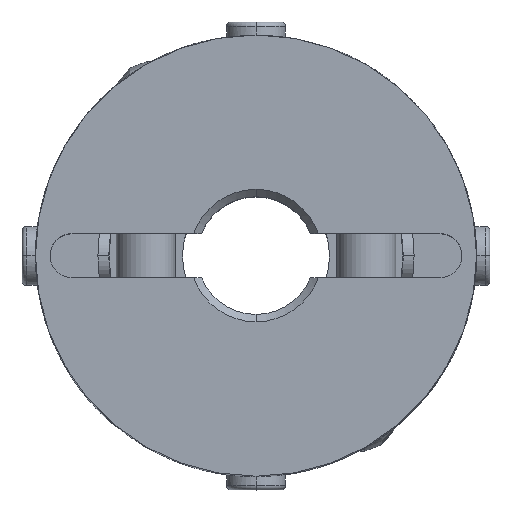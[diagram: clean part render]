
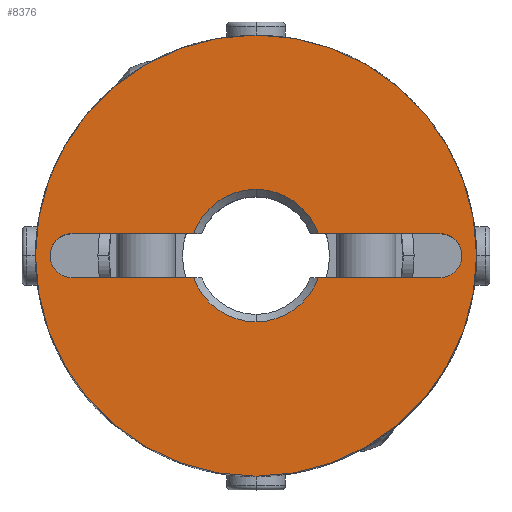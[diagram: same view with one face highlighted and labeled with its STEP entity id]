
A CAD part, top view. The second image highlights one B-rep face of the part: STEP entity #8376.
In plain terms, the highlighted planar face has unit normal (0, 0, 1).
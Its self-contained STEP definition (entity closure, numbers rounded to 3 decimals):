
#649=CARTESIAN_POINT('',(0.,4.5,15.0));
#650=VERTEX_POINT('',#649);
#666=CARTESIAN_POINT('',(4.243,1.5,15.0));
#667=VERTEX_POINT('',#666);
#681=CARTESIAN_POINT('',(0.,0.,15.0));
#682=DIRECTION('',(0.0,0.0,1.0));
#683=DIRECTION('',(0.0,1.0,0.0));
#684=AXIS2_PLACEMENT_3D('',#681,#682,#683);
#685=CIRCLE('',#684,4.5);
#686=EDGE_CURVE('',#667,#650,#685,.T.);
#696=CARTESIAN_POINT('',(0.,-4.5,15.0));
#697=VERTEX_POINT('',#696);
#706=CARTESIAN_POINT('',(4.243,-1.5,15.0));
#707=VERTEX_POINT('',#706);
#708=CARTESIAN_POINT('',(0.,0.,15.0));
#709=DIRECTION('',(0.0,0.0,1.0));
#710=DIRECTION('',(0.0,1.0,0.0));
#711=AXIS2_PLACEMENT_3D('',#708,#709,#710);
#712=CIRCLE('',#711,4.5);
#713=EDGE_CURVE('',#697,#707,#712,.T.);
#872=CARTESIAN_POINT('',(-13.561,-1.061,15.0));
#873=VERTEX_POINT('',#872);
#889=CARTESIAN_POINT('',(-12.5,1.5,15.0));
#890=VERTEX_POINT('',#889);
#897=CARTESIAN_POINT('',(-12.5,0.,15.0));
#898=DIRECTION('',(0.0,0.0,1.0));
#899=DIRECTION('',(-0.707,0.707,0.0));
#900=AXIS2_PLACEMENT_3D('',#897,#898,#899);
#901=CIRCLE('',#900,1.5);
#902=EDGE_CURVE('',#890,#873,#901,.T.);
#914=CARTESIAN_POINT('',(13.561,-1.061,15.0));
#915=VERTEX_POINT('',#914);
#931=CARTESIAN_POINT('',(12.5,-1.5,15.0));
#932=VERTEX_POINT('',#931);
#939=CARTESIAN_POINT('',(12.5,0.,15.0));
#940=DIRECTION('',(0.0,0.0,1.0));
#941=DIRECTION('',(0.707,-0.707,0.0));
#942=AXIS2_PLACEMENT_3D('',#939,#940,#941);
#943=CIRCLE('',#942,1.5);
#944=EDGE_CURVE('',#932,#915,#943,.T.);
#1489=CARTESIAN_POINT('',(0.,-15.,15.0));
#1490=VERTEX_POINT('',#1489);
#1497=CARTESIAN_POINT('',(0.,15.0,15.0));
#1498=VERTEX_POINT('',#1497);
#1499=CARTESIAN_POINT('',(0.,0.,15.0));
#1500=DIRECTION('',(0.0,0.0,-1.0));
#1501=DIRECTION('',(0.0,1.0,0.0));
#1502=AXIS2_PLACEMENT_3D('',#1499,#1500,#1501);
#1503=CIRCLE('',#1502,15.0);
#1504=EDGE_CURVE('',#1490,#1498,#1503,.T.);
#7577=CARTESIAN_POINT('',(0.,0.,15.0));
#7578=DIRECTION('',(0.0,0.0,-1.0));
#7579=DIRECTION('',(0.0,1.0,0.0));
#7580=AXIS2_PLACEMENT_3D('',#7577,#7578,#7579);
#7581=CIRCLE('',#7580,15.0);
#7582=EDGE_CURVE('',#1498,#1490,#7581,.T.);
#8142=CARTESIAN_POINT('',(12.5,1.5,15.0));
#8143=VERTEX_POINT('',#8142);
#8150=CARTESIAN_POINT('',(4.243,1.5,15.0));
#8151=DIRECTION('',(1.0,0.0,0.0));
#8152=VECTOR('',#8151,8.257);
#8153=LINE('',#8150,#8152);
#8154=EDGE_CURVE('',#667,#8143,#8153,.T.);
#8178=CARTESIAN_POINT('',(12.5,0.,15.0));
#8179=DIRECTION('',(0.0,0.0,1.0));
#8180=DIRECTION('',(0.707,-0.707,0.0));
#8181=AXIS2_PLACEMENT_3D('',#8178,#8179,#8180);
#8182=CIRCLE('',#8181,1.5);
#8183=EDGE_CURVE('',#915,#8143,#8182,.T.);
#8196=CARTESIAN_POINT('',(-12.5,-1.5,15.0));
#8197=VERTEX_POINT('',#8196);
#8198=CARTESIAN_POINT('',(-12.5,0.,15.0));
#8199=DIRECTION('',(0.0,0.0,1.0));
#8200=DIRECTION('',(-0.707,0.707,0.0));
#8201=AXIS2_PLACEMENT_3D('',#8198,#8199,#8200);
#8202=CIRCLE('',#8201,1.5);
#8203=EDGE_CURVE('',#873,#8197,#8202,.T.);
#8236=CARTESIAN_POINT('',(-4.243,1.5,15.0));
#8237=VERTEX_POINT('',#8236);
#8251=CARTESIAN_POINT('',(-12.5,1.5,15.0));
#8252=DIRECTION('',(1.0,0.0,0.0));
#8253=VECTOR('',#8252,8.257);
#8254=LINE('',#8251,#8253);
#8255=EDGE_CURVE('',#890,#8237,#8254,.T.);
#8270=CARTESIAN_POINT('',(-4.243,-1.5,15.0));
#8271=VERTEX_POINT('',#8270);
#8272=CARTESIAN_POINT('',(-4.243,-1.5,15.0));
#8273=DIRECTION('',(-1.0,0.0,0.0));
#8274=VECTOR('',#8273,8.257);
#8275=LINE('',#8272,#8274);
#8276=EDGE_CURVE('',#8271,#8197,#8275,.T.);
#8328=CARTESIAN_POINT('',(12.5,-1.5,15.0));
#8329=DIRECTION('',(-1.0,0.0,0.0));
#8330=VECTOR('',#8329,8.257);
#8331=LINE('',#8328,#8330);
#8332=EDGE_CURVE('',#932,#707,#8331,.T.);
#8341=CARTESIAN_POINT('',(0.,1.364,15.0));
#8342=DIRECTION('',(0.0,0.0,1.0));
#8343=DIRECTION('',(0.0,1.0,0.0));
#8344=AXIS2_PLACEMENT_3D('',#8341,#8342,#8343);
#8345=PLANE('',#8344);
#8346=ORIENTED_EDGE('',*,*,#7582,.F.);
#8347=ORIENTED_EDGE('',*,*,#1504,.F.);
#8348=EDGE_LOOP('',(#8346,#8347));
#8349=FACE_OUTER_BOUND('',#8348,.T.);
#8350=ORIENTED_EDGE('',*,*,#8154,.T.);
#8351=ORIENTED_EDGE('',*,*,#8183,.F.);
#8352=ORIENTED_EDGE('',*,*,#944,.F.);
#8353=ORIENTED_EDGE('',*,*,#8332,.T.);
#8354=ORIENTED_EDGE('',*,*,#713,.F.);
#8355=CARTESIAN_POINT('',(0.,0.,15.0));
#8356=DIRECTION('',(0.0,0.0,1.0));
#8357=DIRECTION('',(0.0,1.0,0.0));
#8358=AXIS2_PLACEMENT_3D('',#8355,#8356,#8357);
#8359=CIRCLE('',#8358,4.5);
#8360=EDGE_CURVE('',#8271,#697,#8359,.T.);
#8361=ORIENTED_EDGE('',*,*,#8360,.F.);
#8362=ORIENTED_EDGE('',*,*,#8276,.T.);
#8363=ORIENTED_EDGE('',*,*,#8203,.F.);
#8364=ORIENTED_EDGE('',*,*,#902,.F.);
#8365=ORIENTED_EDGE('',*,*,#8255,.T.);
#8366=CARTESIAN_POINT('',(0.,0.,15.0));
#8367=DIRECTION('',(0.0,0.0,1.0));
#8368=DIRECTION('',(0.0,1.0,0.0));
#8369=AXIS2_PLACEMENT_3D('',#8366,#8367,#8368);
#8370=CIRCLE('',#8369,4.5);
#8371=EDGE_CURVE('',#650,#8237,#8370,.T.);
#8372=ORIENTED_EDGE('',*,*,#8371,.F.);
#8373=ORIENTED_EDGE('',*,*,#686,.F.);
#8374=EDGE_LOOP('',(#8350,#8351,#8352,#8353,#8354,#8361,#8362,#8363,#8364,#8365,#8372,#8373));
#8375=FACE_BOUND('',#8374,.T.);
#8376=ADVANCED_FACE('',(#8349,#8375),#8345,.T.);
